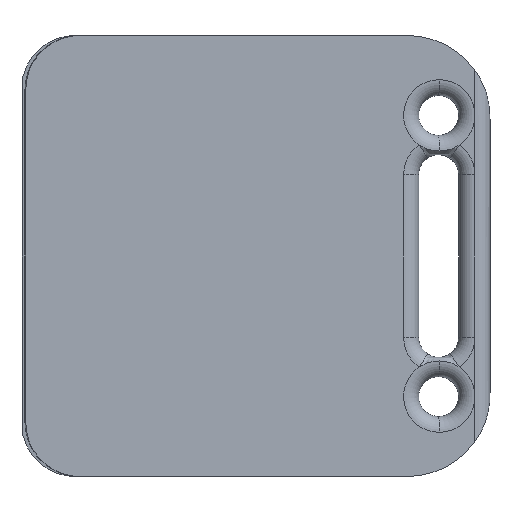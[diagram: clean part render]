
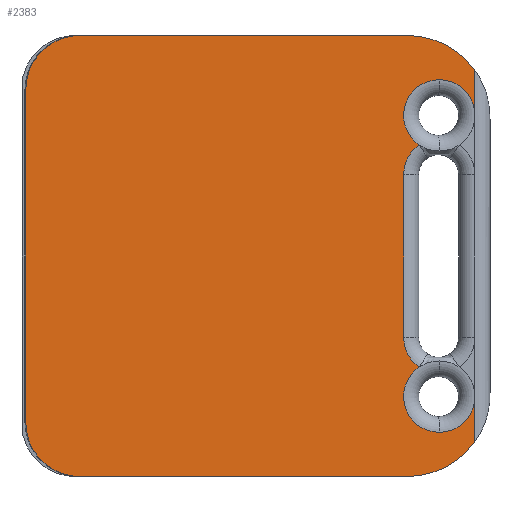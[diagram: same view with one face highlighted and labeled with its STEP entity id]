
A CAD part, front view. The second image highlights one B-rep face of the part: STEP entity #2383.
In plain terms, the highlighted planar face has unit normal (0.04, -0.999, 0) as drawn and (0, 0, 1) by its records, which use the part's own axes.
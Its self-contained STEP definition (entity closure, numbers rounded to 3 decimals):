
#99 = EDGE_CURVE ( 'NONE', #682, #2307, #912, .T. ) ;
#105 = EDGE_CURVE ( 'NONE', #679, #664, #918, .T. ) ;
#157 = EDGE_CURVE ( 'NONE', #2300, #5367, #967, .T. ) ;
#158 = EDGE_CURVE ( 'NONE', #5367, #682, #970, .T. ) ;
#159 = EDGE_CURVE ( 'NONE', #2307, #699, #972, .T. ) ;
#160 = EDGE_CURVE ( 'NONE', #699, #5366, #971, .T. ) ;
#161 = EDGE_CURVE ( 'NONE', #5366, #5365, #975, .T. ) ;
#162 = EDGE_CURVE ( 'NONE', #5365, #5363, #974, .T. ) ;
#163 = EDGE_CURVE ( 'NONE', #5363, #5364, #978, .T. ) ;
#164 = EDGE_CURVE ( 'NONE', #5364, #5362, #977, .T. ) ;
#165 = EDGE_CURVE ( 'NONE', #5362, #5358, #981, .T. ) ;
#166 = EDGE_CURVE ( 'NONE', #5358, #5361, #980, .T. ) ;
#167 = EDGE_CURVE ( 'NONE', #5361, #5360, #984, .T. ) ;
#168 = EDGE_CURVE ( 'NONE', #5360, #5373, #983, .T. ) ;
#169 = EDGE_CURVE ( 'NONE', #5373, #679, #986, .T. ) ;
#170 = EDGE_CURVE ( 'NONE', #664, #2300, #988, .T. ) ;
#522 = EDGE_LOOP ( 'NONE', ( #2051, #2052, #2053, #2054, #2055, #2056, #2057, #2058, #2059, #2060, #2061, #2062, #2063, #2064, #2065, #2066 ) ) ;
#664 = VERTEX_POINT ( 'NONE', #3505 ) ;
#679 = VERTEX_POINT ( 'NONE', #3520 ) ;
#682 = VERTEX_POINT ( 'NONE', #3523 ) ;
#699 = VERTEX_POINT ( 'NONE', #3540 ) ;
#912 = CIRCLE ( 'NONE', #1226, 18.75 ) ;
#918 = CIRCLE ( 'NONE', #1232, 18.75 ) ;
#967 = LINE ( 'NONE', #1798, #969 ) ;
#969 = VECTOR ( 'NONE', #1799, 1000. ) ;
#970 = CIRCLE ( 'NONE', #1248, 18.75 ) ;
#971 = LINE ( 'NONE', #1806, #973 ) ;
#972 = CIRCLE ( 'NONE', #1249, 18.75 ) ;
#973 = VECTOR ( 'NONE', #1807, 1000. ) ;
#974 = LINE ( 'NONE', #1811, #976 ) ;
#975 = CIRCLE ( 'NONE', #1250, 44. ) ;
#976 = VECTOR ( 'NONE', #1812, 1000. ) ;
#977 = LINE ( 'NONE', #1816, #979 ) ;
#978 = CIRCLE ( 'NONE', #1251, 28.5 ) ;
#979 = VECTOR ( 'NONE', #1817, 1000. ) ;
#980 = LINE ( 'NONE', #1821, #982 ) ;
#981 = CIRCLE ( 'NONE', #1252, 28.5 ) ;
#982 = VECTOR ( 'NONE', #1822, 1000. ) ;
#983 = LINE ( 'NONE', #1826, #985 ) ;
#984 = CIRCLE ( 'NONE', #1253, 44. ) ;
#985 = VECTOR ( 'NONE', #1827, 1000. ) ;
#986 = CIRCLE ( 'NONE', #1254, 18.75 ) ;
#988 = CIRCLE ( 'NONE', #1255, 18.75 ) ;
#1189 = CARTESIAN_POINT ( 'NONE',  ( 73.887, -61.9, 0. ) ) ;
#1190 = DIRECTION ( 'NONE',  ( 0., 0., -1. ) ) ;
#1191 = DIRECTION ( 'NONE',  ( -1., 0., 0. ) ) ;
#1207 = CARTESIAN_POINT ( 'NONE',  ( -73.887, -61.9, 0. ) ) ;
#1208 = DIRECTION ( 'NONE',  ( 0., 0., -1. ) ) ;
#1209 = DIRECTION ( 'NONE',  ( -1., 0., 0. ) ) ;
#1226 = AXIS2_PLACEMENT_3D ( 'NONE', #1189, #1190, #1191 ) ;
#1232 = AXIS2_PLACEMENT_3D ( 'NONE', #1207, #1208, #1209 ) ;
#1248 = AXIS2_PLACEMENT_3D ( 'NONE', #1800, #1801, #1802 ) ;
#1249 = AXIS2_PLACEMENT_3D ( 'NONE', #1803, #1804, #1805 ) ;
#1250 = AXIS2_PLACEMENT_3D ( 'NONE', #1808, #1809, #1810 ) ;
#1251 = AXIS2_PLACEMENT_3D ( 'NONE', #1813, #1814, #1815 ) ;
#1252 = AXIS2_PLACEMENT_3D ( 'NONE', #1818, #1819, #1820 ) ;
#1253 = AXIS2_PLACEMENT_3D ( 'NONE', #1823, #1824, #1825 ) ;
#1254 = AXIS2_PLACEMENT_3D ( 'NONE', #1828, #1829, #1830 ) ;
#1255 = AXIS2_PLACEMENT_3D ( 'NONE', #1831, #1832, #1833 ) ;
#1365 = AXIS2_PLACEMENT_3D ( 'NONE', #3695, #3696, #3697 ) ;
#1798 = CARTESIAN_POINT ( 'NONE',  ( -87.388, -43.15, 0. ) ) ;
#1799 = DIRECTION ( 'NONE',  ( 1., 0., 0. ) ) ;
#1800 = CARTESIAN_POINT ( 'NONE',  ( 42.737, -61.9, 0. ) ) ;
#1801 = DIRECTION ( 'NONE',  ( 0., 0., -1. ) ) ;
#1802 = DIRECTION ( 'NONE',  ( -1., 0., 0. ) ) ;
#1803 = CARTESIAN_POINT ( 'NONE',  ( 73.887, -61.9, 0. ) ) ;
#1804 = DIRECTION ( 'NONE',  ( 0., 0., -1. ) ) ;
#1805 = DIRECTION ( 'NONE',  ( -1., 0., 0. ) ) ;
#1806 = CARTESIAN_POINT ( 'NONE',  ( -115.888, -80.65, 0. ) ) ;
#1807 = DIRECTION ( 'NONE',  ( 1., 0., 0. ) ) ;
#1808 = CARTESIAN_POINT ( 'NONE',  ( 71.887, -44.9, 0. ) ) ;
#1809 = DIRECTION ( 'NONE',  ( 0., 0., 1. ) ) ;
#1810 = DIRECTION ( 'NONE',  ( -1., 0., 0. ) ) ;
#1811 = CARTESIAN_POINT ( 'NONE',  ( 115.888, 0., 0. ) ) ;
#1812 = DIRECTION ( 'NONE',  ( 0., 1., 0. ) ) ;
#1813 = CARTESIAN_POINT ( 'NONE',  ( 87.388, 127.075, 0. ) ) ;
#1814 = DIRECTION ( 'NONE',  ( 0., 0., 1. ) ) ;
#1815 = DIRECTION ( 'NONE',  ( -1., 0., 0. ) ) ;
#1816 = CARTESIAN_POINT ( 'NONE',  ( -87.387, 155.575, 0. ) ) ;
#1817 = DIRECTION ( 'NONE',  ( -1., 0., 0. ) ) ;
#1818 = CARTESIAN_POINT ( 'NONE',  ( -87.388, 127.075, 0. ) ) ;
#1819 = DIRECTION ( 'NONE',  ( 0., 0., 1. ) ) ;
#1820 = DIRECTION ( 'NONE',  ( -1., 0., 0. ) ) ;
#1821 = CARTESIAN_POINT ( 'NONE',  ( -115.888, 0., 0. ) ) ;
#1822 = DIRECTION ( 'NONE',  ( 0., -1., 0. ) ) ;
#1823 = CARTESIAN_POINT ( 'NONE',  ( -71.888, -44.9, 0. ) ) ;
#1824 = DIRECTION ( 'NONE',  ( 0., 0., 1. ) ) ;
#1825 = DIRECTION ( 'NONE',  ( 1., 0., 0. ) ) ;
#1826 = CARTESIAN_POINT ( 'NONE',  ( -115.888, -80.65, 0. ) ) ;
#1827 = DIRECTION ( 'NONE',  ( 1., 0., 0. ) ) ;
#1828 = CARTESIAN_POINT ( 'NONE',  ( -73.887, -61.9, 0. ) ) ;
#1829 = DIRECTION ( 'NONE',  ( 0., 0., -1. ) ) ;
#1830 = DIRECTION ( 'NONE',  ( -1., 0., 0. ) ) ;
#1831 = CARTESIAN_POINT ( 'NONE',  ( -42.737, -61.9, 0. ) ) ;
#1832 = DIRECTION ( 'NONE',  ( 0., 0., -1. ) ) ;
#1833 = DIRECTION ( 'NONE',  ( -1., 0., 0. ) ) ;
#2051 = ORIENTED_EDGE ( 'NONE', *, *, #157, .T. ) ;
#2052 = ORIENTED_EDGE ( 'NONE', *, *, #158, .T. ) ;
#2053 = ORIENTED_EDGE ( 'NONE', *, *, #99, .T. ) ;
#2054 = ORIENTED_EDGE ( 'NONE', *, *, #159, .T. ) ;
#2055 = ORIENTED_EDGE ( 'NONE', *, *, #160, .T. ) ;
#2056 = ORIENTED_EDGE ( 'NONE', *, *, #161, .T. ) ;
#2057 = ORIENTED_EDGE ( 'NONE', *, *, #162, .T. ) ;
#2058 = ORIENTED_EDGE ( 'NONE', *, *, #163, .T. ) ;
#2059 = ORIENTED_EDGE ( 'NONE', *, *, #164, .T. ) ;
#2060 = ORIENTED_EDGE ( 'NONE', *, *, #165, .T. ) ;
#2061 = ORIENTED_EDGE ( 'NONE', *, *, #166, .T. ) ;
#2062 = ORIENTED_EDGE ( 'NONE', *, *, #167, .T. ) ;
#2063 = ORIENTED_EDGE ( 'NONE', *, *, #168, .T. ) ;
#2064 = ORIENTED_EDGE ( 'NONE', *, *, #169, .T. ) ;
#2065 = ORIENTED_EDGE ( 'NONE', *, *, #105, .T. ) ;
#2066 = ORIENTED_EDGE ( 'NONE', *, *, #170, .T. ) ;
#2300 = VERTEX_POINT ( 'NONE', #3551 ) ;
#2307 = VERTEX_POINT ( 'NONE', #3558 ) ;
#2383 = ADVANCED_FACE ( 'NONE', ( #4031 ), #3694, .F. ) ;
#3505 = CARTESIAN_POINT ( 'NONE',  ( -58.312, -51.461, 0. ) ) ;
#3520 = CARTESIAN_POINT ( 'NONE',  ( -92.637, -61.9, 0. ) ) ;
#3523 = CARTESIAN_POINT ( 'NONE',  ( 58.312, -51.461, 0. ) ) ;
#3540 = CARTESIAN_POINT ( 'NONE',  ( 73.887, -80.65, 0. ) ) ;
#3551 = CARTESIAN_POINT ( 'NONE',  ( -42.737, -43.15, 0. ) ) ;
#3558 = CARTESIAN_POINT ( 'NONE',  ( 92.637, -61.9, 0. ) ) ;
#3694 = PLANE ( 'NONE',  #1365 ) ;
#3695 = CARTESIAN_POINT ( 'NONE',  ( -87.388, 127.075, 0. ) ) ;
#3696 = DIRECTION ( 'NONE',  ( 0., 0., -1. ) ) ;
#3697 = DIRECTION ( 'NONE',  ( -1., 0., 0. ) ) ;
#4031 = FACE_OUTER_BOUND ( 'NONE', #522, .T. ) ;
#5264 = CARTESIAN_POINT ( 'NONE',  ( -115.888, 127.075, 0. ) ) ;
#5266 = CARTESIAN_POINT ( 'NONE',  ( -97.538, -80.65, 0. ) ) ;
#5267 = CARTESIAN_POINT ( 'NONE',  ( -115.888, -44.9, 0. ) ) ;
#5268 = CARTESIAN_POINT ( 'NONE',  ( -87.387, 155.575, 0. ) ) ;
#5269 = CARTESIAN_POINT ( 'NONE',  ( 115.888, 127.075, 0. ) ) ;
#5270 = CARTESIAN_POINT ( 'NONE',  ( 87.387, 155.575, 0. ) ) ;
#5271 = CARTESIAN_POINT ( 'NONE',  ( 115.888, -44.9, 0. ) ) ;
#5272 = CARTESIAN_POINT ( 'NONE',  ( 97.538, -80.65, 0. ) ) ;
#5273 = CARTESIAN_POINT ( 'NONE',  ( 42.737, -43.15, 0. ) ) ;
#5279 = CARTESIAN_POINT ( 'NONE',  ( -73.887, -80.65, 0. ) ) ;
#5358 = VERTEX_POINT ( 'NONE', #5264 ) ;
#5360 = VERTEX_POINT ( 'NONE', #5266 ) ;
#5361 = VERTEX_POINT ( 'NONE', #5267 ) ;
#5362 = VERTEX_POINT ( 'NONE', #5268 ) ;
#5363 = VERTEX_POINT ( 'NONE', #5269 ) ;
#5364 = VERTEX_POINT ( 'NONE', #5270 ) ;
#5365 = VERTEX_POINT ( 'NONE', #5271 ) ;
#5366 = VERTEX_POINT ( 'NONE', #5272 ) ;
#5367 = VERTEX_POINT ( 'NONE', #5273 ) ;
#5373 = VERTEX_POINT ( 'NONE', #5279 ) ;
